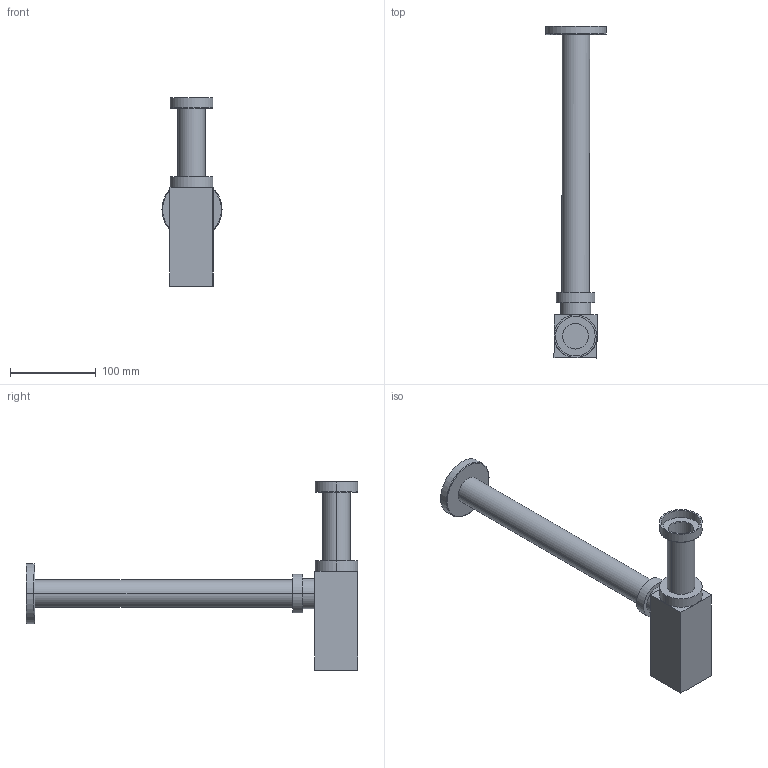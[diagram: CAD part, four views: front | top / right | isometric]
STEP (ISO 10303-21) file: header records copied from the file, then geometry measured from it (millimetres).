
FILE_DESCRIPTION (( 'STEP AP203' ), '1' );
FILE_NAME ('SIF50.STEP', '2017-01-19T14:56:59', ( '' ), ( '' ), 'SwSTEP 2.0', 'SolidWorks 2014', '' );
FILE_SCHEMA (( 'CONFIG_CONTROL_DESIGN' ));
Length unit declared in the file: millimetre
Products named in the file (1): SIF50
Bounding box: 70.01 x 386.09 x 219 mm (x, y, z)
Volume: 367234.6 mm3; surface area: 128301.3 mm2
Topology: 1 solids, 1 shells, 51 faces, 104 edges, 68 vertices
Faces by surface type: cylinder 24, plane 23, torus 4
Entity records: 1439 total; most frequent: DIRECTION 264, CARTESIAN_POINT 224, ORIENTED_EDGE 208, AXIS2_PLACEMENT_3D 108, EDGE_CURVE 104, VERTEX_POINT 68, EDGE_LOOP 64, CIRCLE 56
